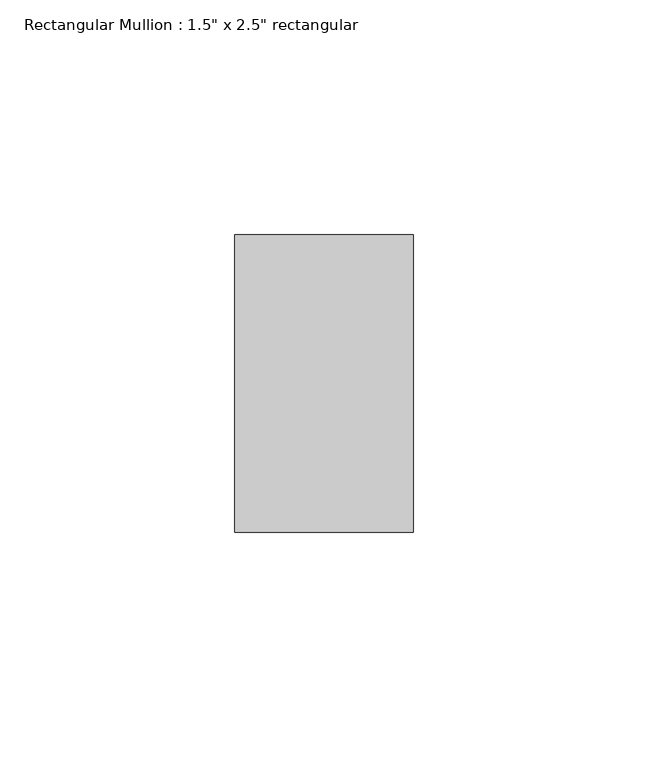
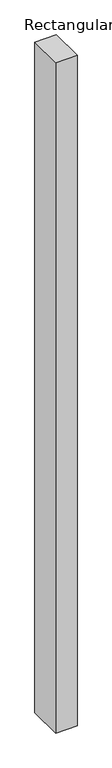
"""IFC4 building model written with IfcOpenShell, lengths in millimetres: member geometry."""

from ifc_helpers import new_model, si_unit, frame, origin, place, context, project, spatial, polyline, outline, extrude, source, transform, mapped, element, save


def member_328ab8e7(model_context):
    return source(origin(), model_context, "Body", "SweptSolid", [
        extrude(outline(polyline([(0.0, 31.75), (0.0, -31.75), (-38.1, -31.75), (-38.1, 31.75), (0.0, 31.75)])), frame((0.0, 0.0, -1256.7390859), z_axis=(0.0, 0.0, 1.0), x_axis=(1.0, 0.0, 0.0)), (0.0, 0.0, 1.0), 1256.7390859),
    ])


if __name__ == "__main__":
    model = new_model("IFC4")
    model_context = context("Model", 3, world=origin())
    ifc_project = project(units=[si_unit("LENGTHUNIT", "METRE", prefix="MILLI")], contexts=[model_context])
    site = spatial("IfcSite", under=ifc_project)
    building = spatial("IfcBuilding", under=site)
    placement = place(None, origin())
    member_shape = member_328ab8e7(model_context)
    element("IfcMember", 1, ObjectType="Rectangular Mullion : 1.5\" x 2.5\" rectangular", at=placement, inside=building, context=model_context, shape_type="MappedRepresentation", body=[
        mapped(member_shape, transform((0.0, 0.0, 0.0), x_axis=(1.0, 0.0, 0.0), y_axis=(0.0, 1.0, 0.0), z_axis=(0.0, 0.0, 1.0))),
    ])
    save(model, "model.ifc")
